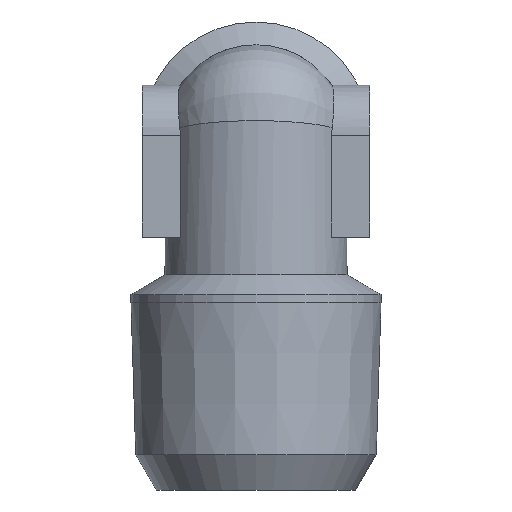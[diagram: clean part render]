
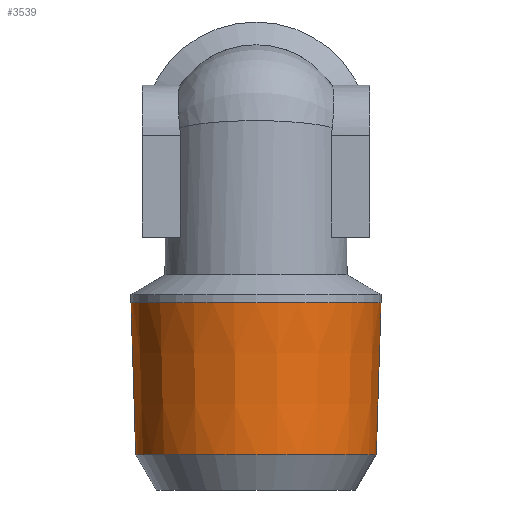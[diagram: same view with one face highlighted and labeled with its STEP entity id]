
A CAD part, left-side view. The second image highlights one B-rep face of the part: STEP entity #3539.
In plain terms, the highlighted conical face has half-angle 1.79 degrees and reference radius 4.942 mm.
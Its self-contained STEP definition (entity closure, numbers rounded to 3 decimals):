
#1103=CONICAL_SURFACE('',#3451,4.942,1.79);
#1189=ORIENTED_EDGE('',*,*,#1465,.F.);
#1190=ORIENTED_EDGE('',*,*,#1464,.F.);
#1332=CIRCLE('',#3450,4.942);
#1333=CIRCLE('',#3452,4.755);
#1391=VERTEX_POINT('',#2616);
#1392=VERTEX_POINT('',#2619);
#1464=EDGE_CURVE('',#1391,#1391,#1332,.T.);
#1465=EDGE_CURVE('',#1392,#1392,#1333,.T.);
#1546=EDGE_LOOP('',(#1189));
#1547=EDGE_LOOP('',(#1190));
#1632=FACE_BOUND('',#1546,.T.);
#1633=FACE_BOUND('',#1547,.T.);
#1769=DIRECTION('',(0.,1.,0.));
#1770=DIRECTION('',(0.,0.,-4.942));
#1771=DIRECTION('',(0.,1.,0.));
#1772=DIRECTION('',(0.,0.,1.));
#1773=DIRECTION('',(0.,-1.,0.));
#1774=DIRECTION('',(0.,0.,4.755));
#2616=CARTESIAN_POINT('',(30.775,22.662,4.942));
#2617=CARTESIAN_POINT('',(30.775,22.662,0.));
#2618=CARTESIAN_POINT('',(30.775,22.662,0.));
#2619=CARTESIAN_POINT('',(30.775,16.662,4.755));
#2620=CARTESIAN_POINT('',(30.775,16.662,0.));
#3450=AXIS2_PLACEMENT_3D('',#2617,#1769,#1770);
#3451=AXIS2_PLACEMENT_3D('',#2618,#1771,#1772);
#3452=AXIS2_PLACEMENT_3D('',#2620,#1773,#1774);
#3539=ADVANCED_FACE('',(#1632,#1633),#1103,.T.);
